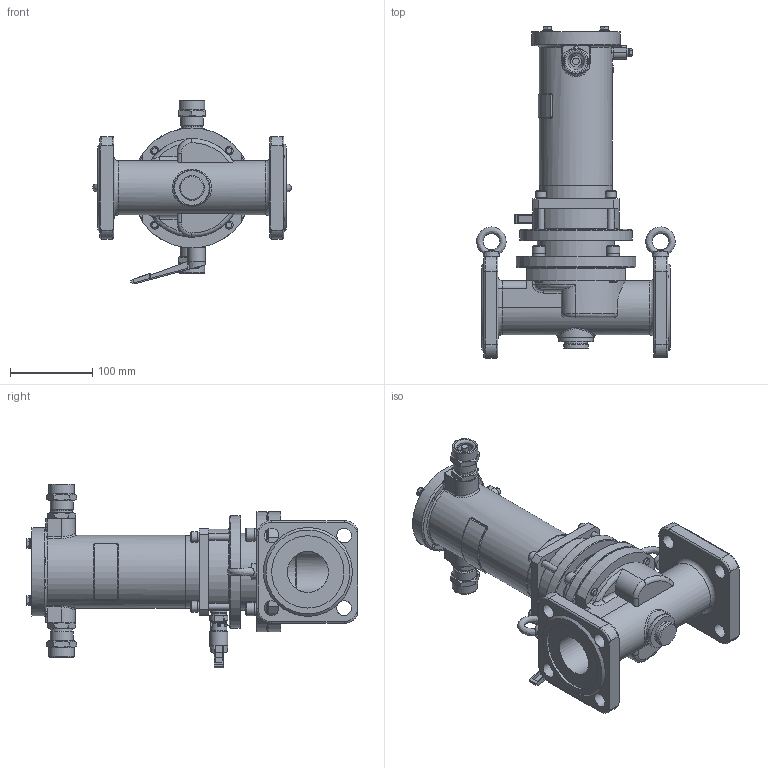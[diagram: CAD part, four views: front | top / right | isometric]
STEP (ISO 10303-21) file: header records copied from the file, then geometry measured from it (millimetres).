
FILE_DESCRIPTION(('STEP AP203'), '1');
FILE_NAME('捇迕-珅 DN50PN25', '', ('UNSPECIFIED'), ('UNSPECIFIED'), 'C3D Converter', 'C3D Toolkit', '');
FILE_SCHEMA(('CONFIG_CONTROL_DESIGN'));
Length unit declared in the file: millimetre
Bounding box: 241.86 x 404.2 x 224 mm (x, y, z)
Volume: 2266832.6 mm3; surface area: 515598.4 mm2
Topology: 4 solids, 20 shells, 2857 faces, 7699 edges, 5001 vertices
Faces by surface type: plane 1246, cylinder 1201, cone 187, extrusion 108, torus 68, bspline 45, sphere 2
Full cylindrical faces by diameter (mm): 1 x2, 2.459 x1, 3 x1, 3.1 x1, 3.242 x1, 3.5 x2, 4 x2, 4.134 x1, 4.3 x1, 4.917 x6, 5 x2, 6 x10, 6.3 x1, 6.647 x8, 7 x1, 8 x13, 9 x9, 10 x7, 11 x5, 12 x6, 12.5 x1, 13 x6, 13.8 x1, 14 x2, 15 x1, 16 x5, 17 x1, 17.8 x1, 18 x8, 18.376 x1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
Entity records: 136170 total; most frequent: CARTESIAN_POINT 41943, DIRECTION 15040, ORIENTED_EDGE 14656, EDGE_CURVE 7328, AXIS2_PLACEMENT_3D 5612, VERTEX_POINT 4975, VECTOR 3816, LINE 3708
